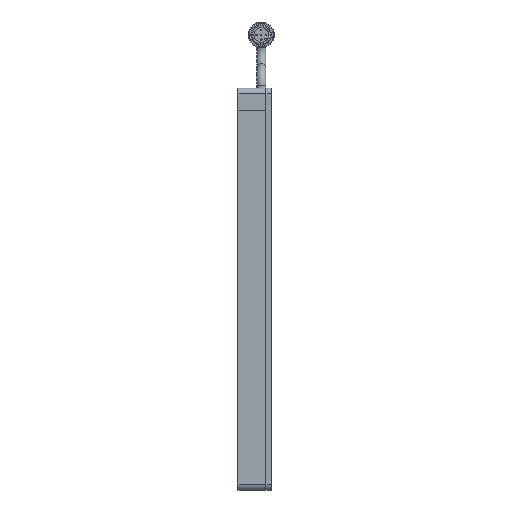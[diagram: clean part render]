
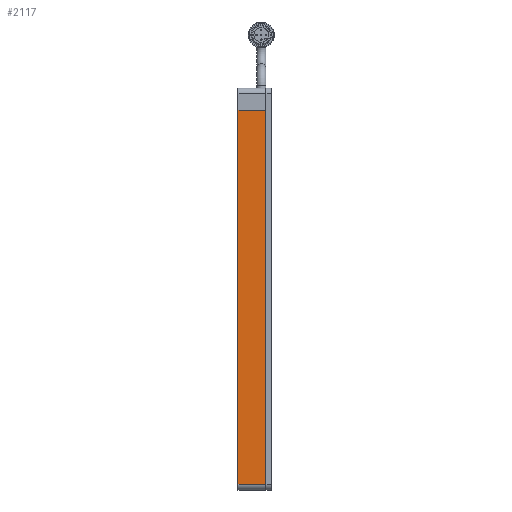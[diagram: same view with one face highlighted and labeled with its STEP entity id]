
A CAD part, left-side view. The second image highlights one B-rep face of the part: STEP entity #2117.
In plain terms, the highlighted planar face has unit normal (-1, 0, 0) as drawn and (0, 0, -1) by its records, which use the part's own axes.
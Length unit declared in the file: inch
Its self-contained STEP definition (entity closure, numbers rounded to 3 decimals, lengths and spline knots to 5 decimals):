
#52 = EDGE_CURVE ( 'NONE', #4154, #3709, #5051, .T. ) ;
#343 = DIRECTION ( 'NONE',  ( 0., -1., 0. ) ) ;
#774 = CARTESIAN_POINT ( 'NONE',  ( -4.5, 0.3125, -0.25 ) ) ;
#894 = LINE ( 'NONE', #9001, #12071 ) ;
#908 = FACE_OUTER_BOUND ( 'NONE', #6754, .T. ) ;
#1778 = CARTESIAN_POINT ( 'NONE',  ( -4., 0.3125, -0.25 ) ) ;
#2117 = ADVANCED_FACE ( 'NONE', ( #908 ), #4983, .F. ) ;
#3631 = VECTOR ( 'NONE', #343, 39.37008 ) ;
#3709 = VERTEX_POINT ( 'NONE', #4572 ) ;
#3921 = DIRECTION ( 'NONE',  ( 1., 0., 0. ) ) ;
#3953 = EDGE_CURVE ( 'NONE', #4435, #6835, #894, .T. ) ;
#4058 = DIRECTION ( 'NONE',  ( 0., 0., 1. ) ) ;
#4154 = VERTEX_POINT ( 'NONE', #10969 ) ;
#4377 = DIRECTION ( 'NONE',  ( -1., 0., 0. ) ) ;
#4435 = VERTEX_POINT ( 'NONE', #11679 ) ;
#4572 = CARTESIAN_POINT ( 'NONE',  ( -4., -0.3125, -0.25 ) ) ;
#4700 = CARTESIAN_POINT ( 'NONE',  ( -4., -0.3125, -0.25 ) ) ;
#4983 = PLANE ( 'NONE',  #6832 ) ;
#5051 = LINE ( 'NONE', #10150, #6631 ) ;
#5677 = EDGE_CURVE ( 'NONE', #4435, #4154, #10254, .T. ) ;
#5920 = VECTOR ( 'NONE', #7742, 39.37008 ) ;
#6424 = CARTESIAN_POINT ( 'NONE',  ( 4.375, 0.3125, -0.25 ) ) ;
#6631 = VECTOR ( 'NONE', #4377, 39.37008 ) ;
#6748 = LINE ( 'NONE', #4700, #5920 ) ;
#6754 = EDGE_LOOP ( 'NONE', ( #11453, #11856, #6901, #7523 ) ) ;
#6832 = AXIS2_PLACEMENT_3D ( 'NONE', #774, #4058, #3921 ) ;
#6835 = VERTEX_POINT ( 'NONE', #1778 ) ;
#6901 = ORIENTED_EDGE ( 'NONE', *, *, #52, .T. ) ;
#7523 = ORIENTED_EDGE ( 'NONE', *, *, #12065, .T. ) ;
#7742 = DIRECTION ( 'NONE',  ( 0., 1., 0. ) ) ;
#8013 = DIRECTION ( 'NONE',  ( -1., 0., 0. ) ) ;
#9001 = CARTESIAN_POINT ( 'NONE',  ( -4.5, 0.3125, -0.25 ) ) ;
#10150 = CARTESIAN_POINT ( 'NONE',  ( -4.5, -0.3125, -0.25 ) ) ;
#10254 = LINE ( 'NONE', #6424, #3631 ) ;
#10969 = CARTESIAN_POINT ( 'NONE',  ( 4.375, -0.3125, -0.25 ) ) ;
#11453 = ORIENTED_EDGE ( 'NONE', *, *, #3953, .F. ) ;
#11679 = CARTESIAN_POINT ( 'NONE',  ( 4.375, 0.3125, -0.25 ) ) ;
#11856 = ORIENTED_EDGE ( 'NONE', *, *, #5677, .T. ) ;
#12065 = EDGE_CURVE ( 'NONE', #3709, #6835, #6748, .T. ) ;
#12071 = VECTOR ( 'NONE', #8013, 39.37008 ) ;
